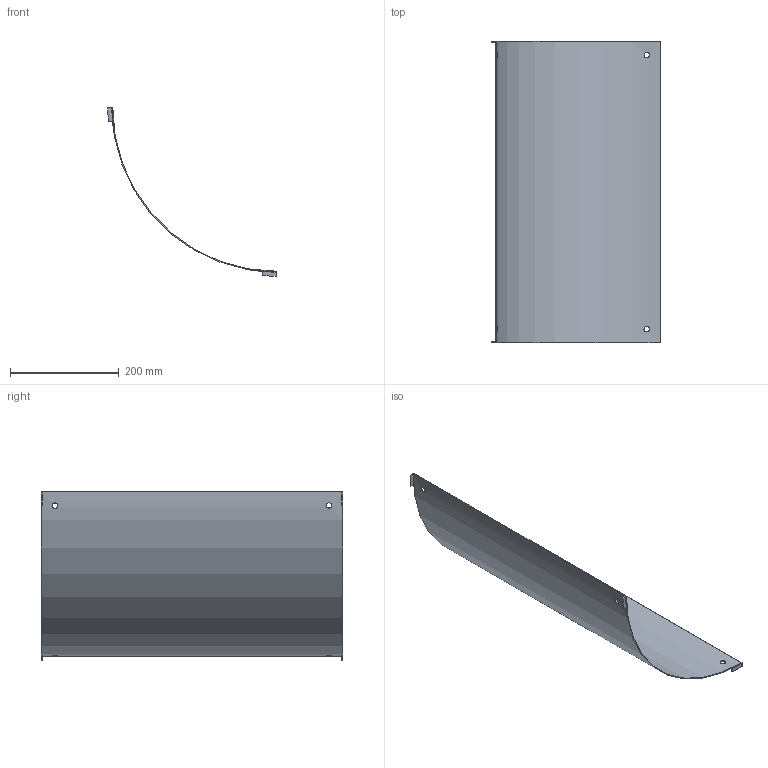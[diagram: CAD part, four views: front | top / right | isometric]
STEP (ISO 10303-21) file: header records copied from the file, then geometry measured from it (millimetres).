
FILE_DESCRIPTION(/* description */ ('','CAx-IF Rec.Pracs.---Representation and Presentation of Product Manufacturing Information (PMI)---4.0---2014-10-13'),/* implementation_level */ '2;1');
FILE_NAME(/* name */ 'Eurostrut_EIRC500-90-300_Cover Inside Riser 90 for Cable Ladder ECL.step',/* time_stamp */ '2026-09-10T11:55:24+02:00',/* author */ (''),/* organization */ (''),/* preprocessor_version */ 'ST-DEVELOPER v20.1',/* originating_system */ 'Autodesk Revit 2027 27.2.0.39',/* authorisation */ '');
FILE_SCHEMA (('AP242_MANAGED_MODEL_BASED_3D_ENGINEERING_MIM_LF { 1 0 10303 442 2 1 4 }'));
Length unit declared in the file: millimetre
Products named in the file (3): TopLevelAssembly; Sweep; Joined Solid Geometry
Assembly tree (2 placements, depth 2):
  TopLevelAssembly
    Sweep
    Joined Solid Geometry
Bounding box: 309 x 553 x 309 mm (x, y, z)
Volume: 392524.9 mm3; surface area: 527022 mm2
Topology: 5 solids, 5 shells, 38 faces, 84 edges, 56 vertices
Faces by surface type: plane 20, cylinder 18
Entity records: 1358 total; most frequent: CARTESIAN_POINT 461, DIRECTION 174, ORIENTED_EDGE 168, EDGE_CURVE 84, AXIS2_PLACEMENT_3D 63, VERTEX_POINT 56, LINE 48, VECTOR 48
